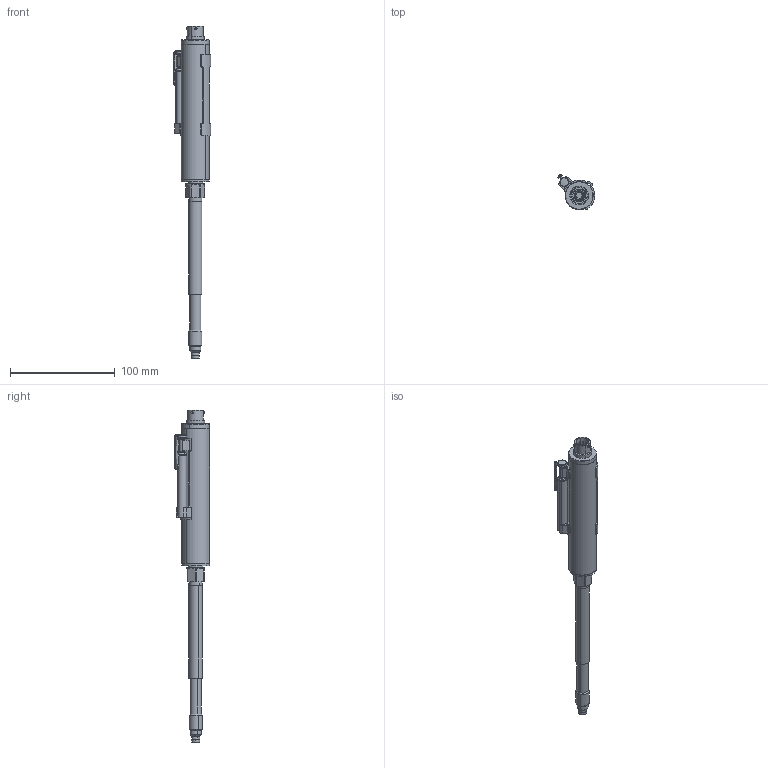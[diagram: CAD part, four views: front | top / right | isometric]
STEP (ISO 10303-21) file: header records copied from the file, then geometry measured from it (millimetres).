
FILE_DESCRIPTION (( 'STEP AP203' ), '1' );
FILE_NAME ('KE0-6-x-xxxx-1-4-0-x-P.STEP', '2021-02-04T13:09:49', ( '' ), ( '' ), 'SwSTEP 2.0', 'SolidWorks 2021', '' );
FILE_SCHEMA (( 'CONFIG_CONTROL_DESIGN' ));
Length unit declared in the file: millimetre
Products named in the file (1): KE0-6-x-xxxx-1-4-0-x-P
Bounding box: 35.7 x 34.1 x 316.67 mm (x, y, z)
Surface area: 27029.8 mm2 (no closed solid volume)
Topology: 0 solids, 19 shells, 273 faces, 760 edges, 500 vertices
Faces by surface type: cylinder 137, plane 76, bspline 28, cone 18, torus 14
Entity records: 9960 total; most frequent: CARTESIAN_POINT 2956, DIRECTION 1540, ORIENTED_EDGE 1339, EDGE_CURVE 758, AXIS2_PLACEMENT_3D 630, VERTEX_POINT 500, CIRCLE 384, EDGE_LOOP 294
